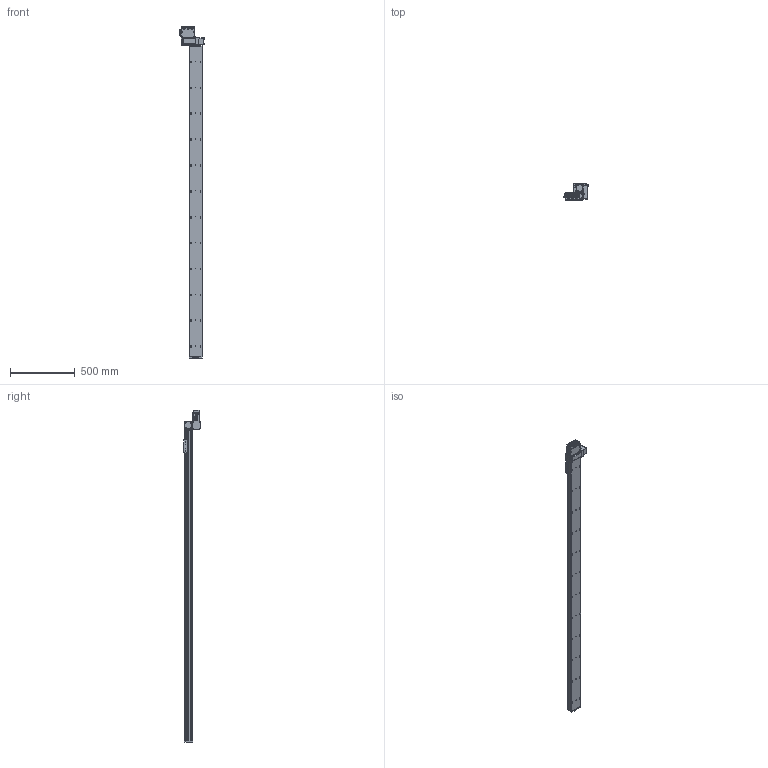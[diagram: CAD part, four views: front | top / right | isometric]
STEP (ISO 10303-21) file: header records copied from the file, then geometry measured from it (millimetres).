
FILE_DESCRIPTION (( 'STEP AP203' ), '1' );
FILE_NAME ('S10 TBH LH S2400.STEP', '2012-06-19T07:22:29', ( 'Conseil Régional Haute-Normandie' ), ( 'Conseil Régional Haute-Normandie' ), 'SwSTEP 2.0', 'SolidWorks 2010', '' );
FILE_SCHEMA (( 'CONFIG_CONTROL_DESIGN' ));
Length unit declared in the file: millimetre
Products named in the file (30): embout; Cvis M5 L30_Default; vis M5 L12_Default; vis M5 L5_Default; Vis M5 L16-2_Default_1; Moteur 60BLDC90A_3; BU45 Carte d''axe A11_5; Couvercle_3; Radiateur profil_X2_00E9_X0_ 100x25_3; Colonnette ronde_3; axe 2400; S10 TBH LH S2400; cache t皻e axe_Default; cache t皻e_Default; palette tbn; plaque de bout s10_Default; Plaque racord_Default; renvoi LH_Default; Assem1_7; T_X2_00F4_X0_le contre le moteur_5; BU41 Carte Alimentation P05_3; Colonnette_3; T_X2_00F4_X0_le fond_3; Connecteur rond D10 3cts_5; Connecteur rond D12 4cts_5; Sub D 9cts 90_X2_00B_X0__3; T_X2_00F4_X0_le Arri_X2_00E8_X0_re_5; T_X2_00F4_X0_le lat_X2_00E9_X0_rale_5; Vis TF 3 torkx_1_1; axe2400_Default
Assembly tree (63 placements, depth 3):
  S10 TBH LH S2400
    cache t皻e axe_Default
    palette tbn
    vis M5 L12_Default  x4
    Vis M5 L16-2_Default_1  x4
    vis M5 L5_Default  x4
    cache t皻e_Default  x2
    axe2400_Default
      axe 2400
    plaque de bout s10_Default
    Cvis M5 L30_Default  x2
    Plaque racord_Default
    renvoi LH_Default
    embout
    Assem1_7
      Colonnette_3  x2
      Vis TF 3 torkx_1_1  x21
      Couvercle_3
      T_X2_00F4_X0_le Arri_X2_00E8_X0_re_5
      T_X2_00F4_X0_le contre le moteur_5
      T_X2_00F4_X0_le fond_3
      Colonnette ronde_3
      Connecteur rond D10 3cts_5  x2
      BU45 Carte d''axe A11_5
      Sub D 9cts 90_X2_00B_X0__3
      T_X2_00F4_X0_le lat_X2_00E9_X0_rale_5  x2
      BU41 Carte Alimentation P05_3
      Moteur 60BLDC90A_3
      Connecteur rond D12 4cts_5
      Radiateur profil_X2_00E9_X0_ 100x25_3
Bounding box: 189.8 x 124.75 x 2566.5 mm (x, y, z)
Volume: 13272595.9 mm3; surface area: 1435693.5 mm2
Topology: 61 solids, 61 shells, 2373 faces, 5874 edges, 3787 vertices
Faces by surface type: plane 1114, cylinder 1034, cone 182, bspline 40, torus 3
Entity records: 49972 total; most frequent: CARTESIAN_POINT 8966, DIRECTION 8113, ORIENTED_EDGE 7328, EDGE_CURVE 3664, AXIS2_PLACEMENT_3D 3033, VERTEX_POINT 2391, LINE 2047, VECTOR 2047
